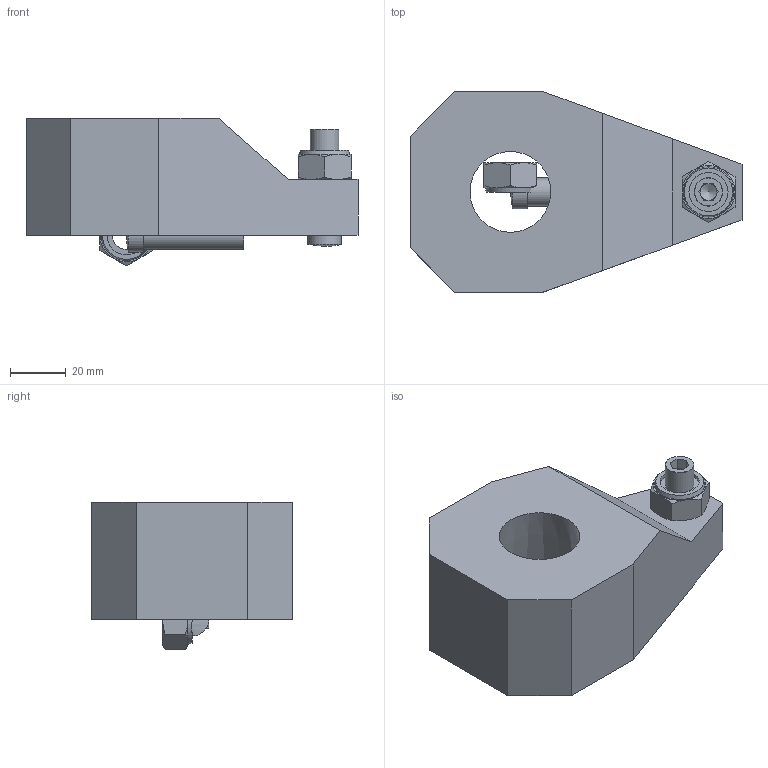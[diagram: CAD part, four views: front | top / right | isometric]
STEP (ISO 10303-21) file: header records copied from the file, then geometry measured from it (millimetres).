
FILE_DESCRIPTION( ( '' ), '1' );
FILE_NAME( 'W:/Catalogue/JSM/jsm63_clamparm/jsm63_clamparm.stp', '2008-05-26T02:59:12', ( '機械事業部産業機器グループ' ), ( '豊和工業株式会社' ), 'XStep 1.0', ' ', ' ' );
FILE_SCHEMA( ( 'CONFIG_CONTROL_DESIGN' ) );
Length unit declared in the file: millimetre
Products named in the file (4): Assem1; 1; 2; 3
Bounding box: 119 x 72 x 52.97 mm (x, y, z)
Volume: 414362.2 mm3; surface area: 61803.4 mm2
Topology: 6 solids, 6 shells, 122 faces, 274 edges, 170 vertices
Faces by surface type: plane 74, cone 32, cylinder 14, sphere 2
Full cylindrical faces by diameter (mm): 6 x2, 10.2 x6, 12 x2, 12.5 x2, 14 x2
Entity records: 1866 total; most frequent: CARTESIAN_POINT 410, DIRECTION 262, ORIENTED_EDGE 240, EDGE_CURVE 120, AXIS2_PLACEMENT_3D 101, EDGE_LOOP 82, VERTEX_POINT 81, FACE_OUTER_BOUND 68
